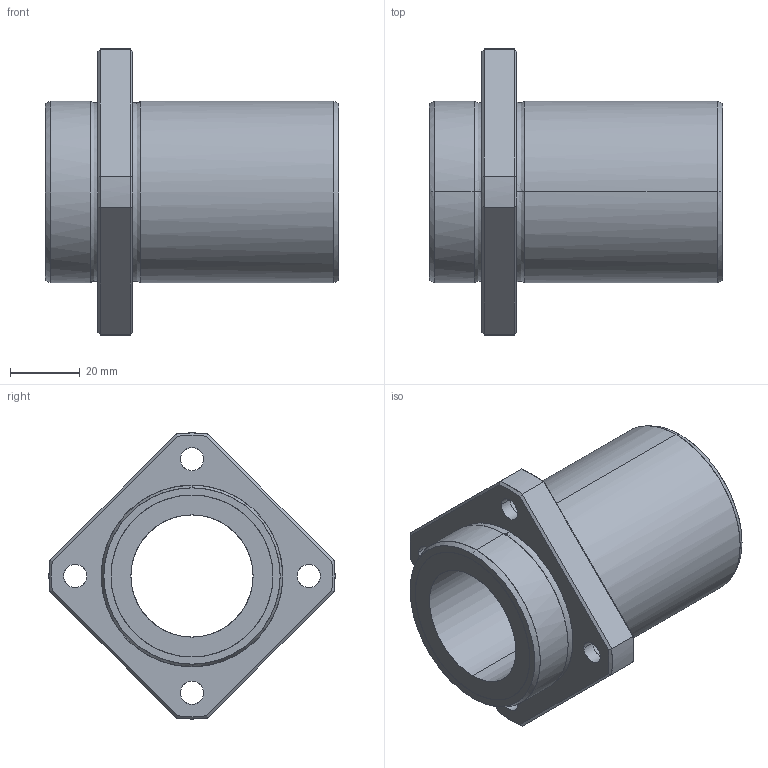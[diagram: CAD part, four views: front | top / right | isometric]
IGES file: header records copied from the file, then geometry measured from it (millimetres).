
Global section: file name: No Iges File Name specified; native system: AutoDesk Inventor R11.0; preprocessor: AutoDesk Inventor Iges Exporter R11.0; author: No Author specified; organization: No Organization specified; date: 20170921.134303; units: millimetre
Bounding box: 84 x 81.99 x 82 mm (x, y, z)
Surface area: 30523.6 mm2 (no closed solid volume)
Topology: 0 solids, 0 shells, 69 faces, 424 edges, 424 vertices
Faces by surface type: bspline 69
